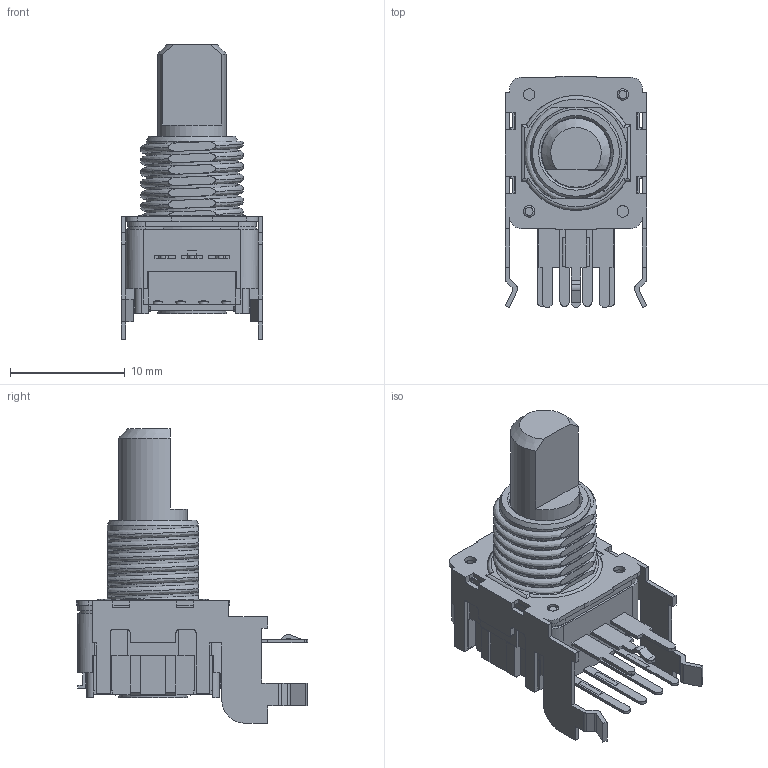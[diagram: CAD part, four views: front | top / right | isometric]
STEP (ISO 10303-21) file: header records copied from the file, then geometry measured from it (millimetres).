
FILE_DESCRIPTION((''),'2;1');
FILE_NAME('\\Forward-ks-ad\開發專區\高雄廠設計課\設計機種開發作業\量產機種專案\絕緣軸\RD12S\RD12S-新版\3D\RD12S-H\K121S1H-F21-BO.stp','2019-05-07T17:30:52',('kak13012'),(''),'Autodesk Inventor 2010','Autodesk Inventor 2010','');
FILE_SCHEMA(('AUTOMOTIVE_DESIGN { 1 0 10303 214 1 1 1 1 }'));
Length unit declared in the file: millimetre
Products named in the file (1): K121S1H-F21-BO
Bounding box: 12.4 x 20.2 x 25.7 mm (x, y, z)
Volume: 1474 mm3; surface area: 2689.8 mm2
Topology: 1 solids, 3 shells, 676 faces, 1831 edges, 1177 vertices
Faces by surface type: plane 475, cylinder 128, bspline 62, cone 7, torus 4
Full cylindrical faces by diameter (mm): 0.5 x3, 0.8 x1, 1 x6, 1.1 x4, 1.2 x1, 1.3 x6, 3.76 x1, 4.5 x1, 5.5 x1, 6 x2, 6.1 x2, 6.12 x1, 7 x1, 8.6 x1
Entity records: 24358 total; most frequent: CARTESIAN_POINT 7186, ORIENTED_EDGE 3572, DIRECTION 3275, EDGE_CURVE 1786, VECTOR 1385, LINE 1385, VERTEX_POINT 1171, AXIS2_PLACEMENT_3D 945
